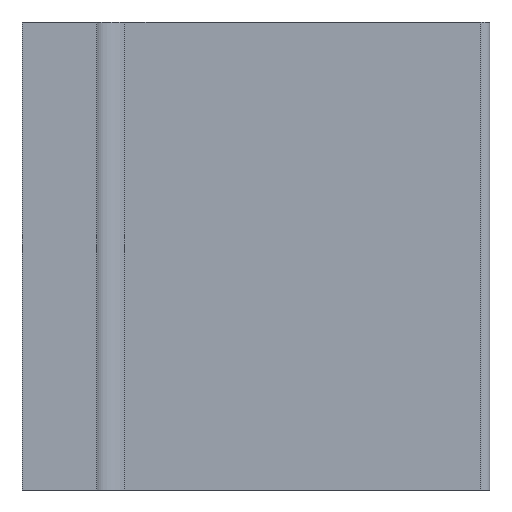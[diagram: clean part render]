
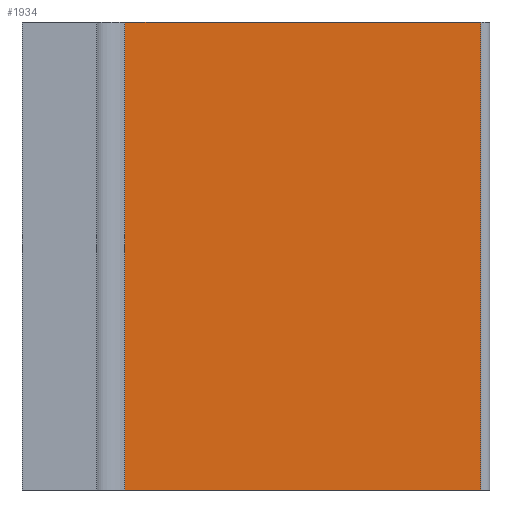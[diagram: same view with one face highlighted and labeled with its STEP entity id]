
A CAD part, front view. The second image highlights one B-rep face of the part: STEP entity #1934.
In plain terms, the highlighted planar face has unit normal (0, -1, 0).
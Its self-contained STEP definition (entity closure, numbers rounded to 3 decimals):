
#48 = EDGE_CURVE ( 'NONE', #122, #1700, #290, .T. ) ;
#96 = VERTEX_POINT ( 'NONE', #783 ) ;
#122 = VERTEX_POINT ( 'NONE', #964 ) ;
#223 = FACE_OUTER_BOUND ( 'NONE', #1894, .T. ) ;
#224 = PLANE ( 'NONE',  #225 ) ;
#225 = AXIS2_PLACEMENT_3D ( 'NONE', #229, #230, #231 ) ;
#229 = CARTESIAN_POINT ( 'NONE',  ( 49., 8.5, 50. ) ) ;
#230 = DIRECTION ( 'NONE',  ( 0., 1., 0. ) ) ;
#231 = DIRECTION ( 'NONE',  ( 0., 0., 1. ) ) ;
#290 = LINE ( 'NONE', #291, #292 ) ;
#291 = CARTESIAN_POINT ( 'NONE',  ( 11., 8.5, 50. ) ) ;
#292 = VECTOR ( 'NONE', #293, 1000. ) ;
#293 = DIRECTION ( 'NONE',  ( 0., 0., -1. ) ) ;
#628 = CARTESIAN_POINT ( 'NONE',  ( 11., 8.5, 0. ) ) ;
#783 = CARTESIAN_POINT ( 'NONE',  ( 49., 8.5, 0. ) ) ;
#964 = CARTESIAN_POINT ( 'NONE',  ( 11., 8.5, 50. ) ) ;
#1053 = VERTEX_POINT ( 'NONE', #1469 ) ;
#1239 = LINE ( 'NONE', #1240, #1241 ) ;
#1240 = CARTESIAN_POINT ( 'NONE',  ( 49., 8.5, 50. ) ) ;
#1241 = VECTOR ( 'NONE', #1242, 1000. ) ;
#1242 = DIRECTION ( 'NONE',  ( 1., 0., 0. ) ) ;
#1285 = EDGE_CURVE ( 'NONE', #1700, #96, #1532, .T. ) ;
#1440 = LINE ( 'NONE', #1441, #1442 ) ;
#1441 = CARTESIAN_POINT ( 'NONE',  ( 49., 8.5, 50. ) ) ;
#1442 = VECTOR ( 'NONE', #1443, 1000. ) ;
#1443 = DIRECTION ( 'NONE',  ( 0., 0., -1. ) ) ;
#1469 = CARTESIAN_POINT ( 'NONE',  ( 49., 8.5, 50. ) ) ;
#1532 = LINE ( 'NONE', #1536, #1537 ) ;
#1536 = CARTESIAN_POINT ( 'NONE',  ( 49., 8.5, 0. ) ) ;
#1537 = VECTOR ( 'NONE', #1538, 1000. ) ;
#1538 = DIRECTION ( 'NONE',  ( 1., 0., 0. ) ) ;
#1700 = VERTEX_POINT ( 'NONE', #628 ) ;
#1729 = ORIENTED_EDGE ( 'NONE', *, *, #48, .T. ) ;
#1800 = ORIENTED_EDGE ( 'NONE', *, *, #2074, .F. ) ;
#1894 = EDGE_LOOP ( 'NONE', ( #2032, #1949, #1800, #1729 ) ) ;
#1934 = ADVANCED_FACE ( 'NONE', ( #223 ), #224, .F. ) ;
#1949 = ORIENTED_EDGE ( 'NONE', *, *, #2104, .F. ) ;
#2032 = ORIENTED_EDGE ( 'NONE', *, *, #1285, .T. ) ;
#2074 = EDGE_CURVE ( 'NONE', #122, #1053, #1239, .T. ) ;
#2104 = EDGE_CURVE ( 'NONE', #1053, #96, #1440, .T. ) ;
